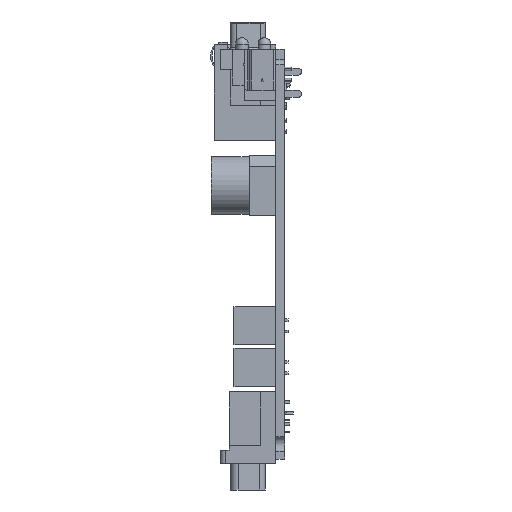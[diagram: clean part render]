
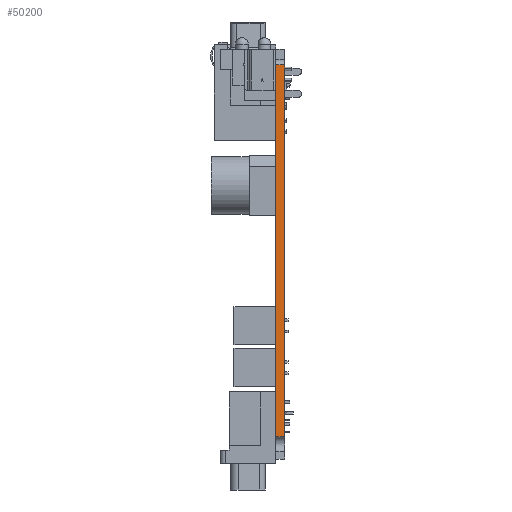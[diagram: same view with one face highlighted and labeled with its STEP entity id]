
A CAD part, left-side view. The second image highlights one B-rep face of the part: STEP entity #50200.
In plain terms, the highlighted planar face has unit normal (-1, 0, 0).
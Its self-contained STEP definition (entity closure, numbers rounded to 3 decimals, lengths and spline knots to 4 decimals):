
#30=DIRECTION('',(0.,0.,1.));
#31=VECTOR('',#30,3.313);
#32=CARTESIAN_POINT('',(-4.1,0.,-1.628));
#33=LINE('',#32,#31);
#5134=DIRECTION('',(0.,0.,1.));
#5135=VECTOR('',#5134,3.313);
#5136=CARTESIAN_POINT('',(-4.1,0.08,-1.628));
#5137=LINE('',#5136,#5135);
#7749=DIRECTION('',(0.,1.,0.));
#7750=VECTOR('',#7749,0.08);
#7751=CARTESIAN_POINT('',(-4.1,0.,1.685));
#7752=LINE('',#7751,#7750);
#7753=DIRECTION('',(0.,1.,0.));
#7754=VECTOR('',#7753,0.08);
#7755=CARTESIAN_POINT('',(-4.1,0.,-1.628));
#7756=LINE('',#7755,#7754);
#32861=CARTESIAN_POINT('',(-4.1,0.,-1.628));
#32863=VERTEX_POINT('',#32861);
#32865=CARTESIAN_POINT('',(-4.1,0.08,-1.628));
#32867=VERTEX_POINT('',#32865);
#32877=CARTESIAN_POINT('',(-4.1,0.,1.685));
#32878=CARTESIAN_POINT('',(-4.1,0.08,1.685));
#32879=VERTEX_POINT('',#32877);
#32880=VERTEX_POINT('',#32878);
#50189=CARTESIAN_POINT('',(-4.1,0.,-1.825));
#50190=DIRECTION('',(-1.,0.,0.));
#50191=DIRECTION('',(0.,0.,1.));
#50192=AXIS2_PLACEMENT_3D('',#50189,#50190,#50191);
#50193=PLANE('',#50192);
#50194=ORIENTED_EDGE('',*,*,#46578,.F.);
#50195=ORIENTED_EDGE('',*,*,#43485,.F.);
#50196=ORIENTED_EDGE('',*,*,#50184,.T.);
#50197=ORIENTED_EDGE('',*,*,#46668,.T.);
#50198=EDGE_LOOP('',(#50194,#50195,#50196,#50197));
#50199=FACE_OUTER_BOUND('',#50198,.F.);
#50200=ADVANCED_FACE('',(#50199),#50193,.T.);
#43485=EDGE_CURVE('',#32863,#32879,#33,.T.);
#46578=EDGE_CURVE('',#32879,#32880,#7752,.T.);
#46668=EDGE_CURVE('',#32867,#32880,#5137,.T.);
#50184=EDGE_CURVE('',#32863,#32867,#7756,.T.);
